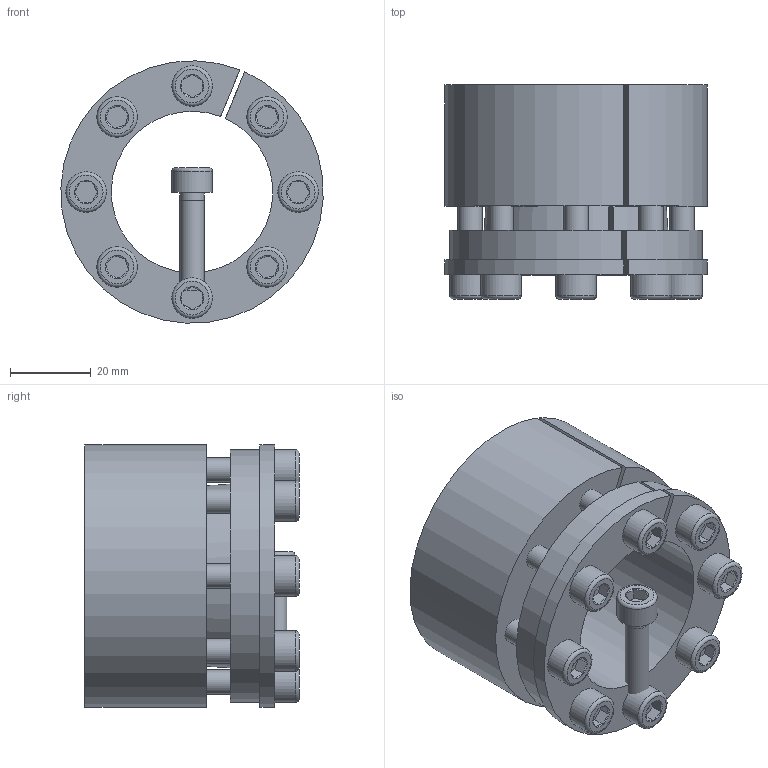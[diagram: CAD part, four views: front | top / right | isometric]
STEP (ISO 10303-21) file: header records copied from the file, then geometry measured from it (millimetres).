
FILE_DESCRIPTION( ( 'Unknown' ), '1' );
FILE_NAME( 'C:/Dokumente und Einstellungen/Sven/Desktop/homepage/cad - homepage/KBS70/KBS 70 - 40 x 65.stp', 'Unknown', ( 'Unknown' ), ( 'Unknown' ), 'XStep 1.0', 'Unknown', ' ' );
FILE_SCHEMA( ( 'automotive_design' ) );
Length unit declared in the file: millimetre
Products named in the file (3): Assem1; KBS 70 - 40 x 65; ISO EN DIN 4762 M6x25
Bounding box: 64.93 x 53 x 64.95 mm (x, y, z)
Volume: 159125.4 mm3; surface area: 65395.3 mm2
Topology: 11 solids, 11 shells, 285 faces, 583 edges, 356 vertices
Faces by surface type: plane 124, cylinder 76, cone 67, torus 18
Full cylindrical faces by diameter (mm): 5 x9, 6 x50, 10 x9
Entity records: 1882 total; most frequent: CARTESIAN_POINT 305, DIRECTION 284, ORIENTED_EDGE 206, AXIS2_PLACEMENT_3D 126, EDGE_LOOP 114, EDGE_CURVE 103, VERTEX_POINT 79, FACE_OUTER_BOUND 77
